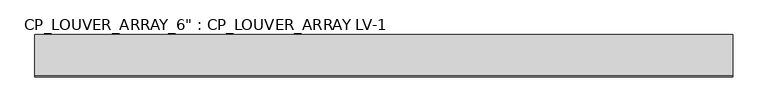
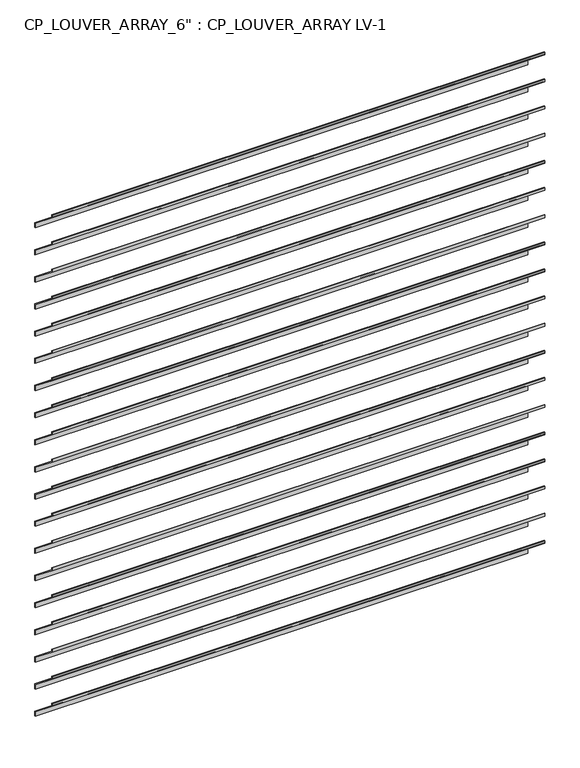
"""IFC4 building model written with IfcOpenShell, lengths in millimetres: plate geometry."""

import ifcopenshell
import ifcopenshell.guid

model = None  # the IFC model being written
_history = None  # IfcOwnerHistory: only IFC2X3 demands one
_inside = {}  # id of a spatial element -> (the spatial element, [elements in it])
_under = {}  # id of a project, library or spatial element -> (it, [spatial elements below it])
_declared = {}  # id of a project -> (the project, [libraries it declares])
_typed = {}  # id of a type object -> (the type object, [elements of that type])
_made_of = {}  # id of a material, layer set ... -> (it, [elements and type objects made of it])


def new_model(schema):
    """Start an empty IFC model of exactly this schema.

    Asked for "IFC4X3", IfcOpenShell would pick the latest addendum, in which some entities
    have other attributes; the version numbers below select the first issue.
    IFC2X3 requires an IfcOwnerHistory on every rooted entity: one is made here for all.
    """
    global model, _history
    if schema == "IFC4X3":
        model = ifcopenshell.file(schema_version=(4, 3, 0, 0))
    else:
        model = ifcopenshell.file(schema=schema)
    _inside.clear()
    _under.clear()
    _declared.clear()
    _typed.clear()
    _made_of.clear()
    _history = None
    if model.schema == "IFC2X3":
        org = make("IfcOrganization", Name="unknown")
        user = make(
            "IfcPersonAndOrganization",
            ThePerson=make("IfcPerson", FamilyName="unknown"),
            TheOrganization=org,
        )
        app = make(
            "IfcApplication",
            ApplicationDeveloper=org,
            Version="unknown",
            ApplicationFullName="unknown",
            ApplicationIdentifier="unknown",
        )
        _history = make(
            "IfcOwnerHistory",
            OwningUser=user,
            OwningApplication=app,
            ChangeAction="ADDED",
            CreationDate=0,
        )
    return model


def make(cls, **values):
    """One entity of the class cls with the attributes given. An attribute that is None is left unset."""
    return model.create_entity(
        cls, **{name: value for name, value in values.items() if value is not None}
    )


def rooted(cls, **values):
    """An entity with a GlobalId (a new one), such as an element, a storey or a relation."""
    return make(cls, GlobalId=ifcopenshell.guid.new(), OwnerHistory=_history, **values)


def si_unit(unit_type, name, prefix=None):
    """IfcSIUnit, for example si_unit("LENGTHUNIT", "METRE", prefix="MILLI")."""
    return make("IfcSIUnit", UnitType=unit_type, Prefix=prefix, Name=name)


def assignment(units):
    """IfcUnitAssignment: the units of a project."""
    return None if units is None else make("IfcUnitAssignment", Units=units)


def point(xyz):
    """IfcCartesianPoint."""
    return None if xyz is None else make("IfcCartesianPoint", Coordinates=xyz)


def direction(xyz):
    """IfcDirection."""
    return None if xyz is None else make("IfcDirection", DirectionRatios=xyz)


def frame(location, z_axis=None, x_axis=None):
    """IfcAxis2Placement3D, a coordinate frame: its origin and axes. An axis left out is left unset."""
    return make(
        "IfcAxis2Placement3D",
        Location=point(location),
        Axis=direction(z_axis),
        RefDirection=direction(x_axis),
    )


def origin():
    """The frame at (0, 0, 0) with its axes left unset."""
    return frame((0.0, 0.0, 0.0))


def place(relative_to, where):
    """IfcLocalPlacement: puts the frame where relative to a parent placement (None: the world)."""
    return make(
        "IfcLocalPlacement", PlacementRelTo=relative_to, RelativePlacement=where
    )


def context(
    kind, dimensions, precision=None, world=None, true_north=None, identifier=None
):
    """IfcGeometricRepresentationContext, for example the 3D "Model" context."""
    return make(
        "IfcGeometricRepresentationContext",
        ContextIdentifier=identifier,
        ContextType=kind,
        CoordinateSpaceDimension=dimensions,
        Precision=precision,
        WorldCoordinateSystem=world,
        TrueNorth=true_north,
    )


def project(units=None, contexts=None):
    """IfcProject with its units and contexts."""
    return rooted(
        "IfcProject",
        Name="project",
        RepresentationContexts=contexts,
        UnitsInContext=assignment(units),
    )


def spatial(cls, under=None, at=None, **own):
    """A site, building, storey or space (cls), placed at a placement, below another one or the project."""
    s = rooted(cls, ObjectPlacement=at, **own)
    if under is not None:
        _under.setdefault(under.id(), (under, []))[1].append(s)
    return s


def polyline(points):
    """IfcPolyline through the points."""
    return make("IfcPolyline", Points=[point(p) for p in points])


def outline(outer, holes=None, kind="AREA"):
    """IfcArbitraryClosedProfileDef: a profile drawn as a closed curve; with holes, ...WithVoids."""
    if holes is None:
        return make("IfcArbitraryClosedProfileDef", ProfileType=kind, OuterCurve=outer)
    return make(
        "IfcArbitraryProfileDefWithVoids",
        ProfileType=kind,
        OuterCurve=outer,
        InnerCurves=holes,
    )


def extrude(swept, where, along, depth):
    """IfcExtrudedAreaSolid: the profile swept, set in the frame where, extruded along a direction by depth."""
    return make(
        "IfcExtrudedAreaSolid",
        SweptArea=swept,
        Position=where,
        ExtrudedDirection=direction(along),
        Depth=depth,
    )


def shape(context_of_items, identifier, shape_type, items):
    """IfcShapeRepresentation: the items that make up one representation, for example the "Body"."""
    return make(
        "IfcShapeRepresentation",
        ContextOfItems=context_of_items,
        RepresentationIdentifier=identifier,
        RepresentationType=shape_type,
        Items=items,
    )


def source(mapping_origin, context_of_items, identifier, shape_type, items):
    """IfcRepresentationMap: a shape defined once, which mapped items show again and again."""
    return make(
        "IfcRepresentationMap",
        MappingOrigin=mapping_origin,
        MappedRepresentation=shape(context_of_items, identifier, shape_type, items),
    )


def transform(
    local_origin,
    x_axis=None,
    y_axis=None,
    z_axis=None,
    scale=None,
    scale2=None,
    scale3=None,
    uniform=True,
):
    """IfcCartesianTransformationOperator3D, or its non-uniform kind. x_axis, y_axis, z_axis: its Axis1, 2, 3."""
    if uniform:
        return make(
            "IfcCartesianTransformationOperator3D",
            Axis1=direction(x_axis),
            Axis2=direction(y_axis),
            LocalOrigin=point(local_origin),
            Scale=scale,
            Axis3=direction(z_axis),
        )
    return make(
        "IfcCartesianTransformationOperator3DnonUniform",
        Axis1=direction(x_axis),
        Axis2=direction(y_axis),
        LocalOrigin=point(local_origin),
        Scale=scale,
        Axis3=direction(z_axis),
        Scale2=scale2,
        Scale3=scale3,
    )


def mapped(mapping_source, mapping_target):
    """IfcMappedItem: shows the shape of a source again, moved by a transform."""
    return make(
        "IfcMappedItem", MappingSource=mapping_source, MappingTarget=mapping_target
    )


def made_of(thing, what):
    """Note that an element or type object is made of a material, layer set ...; save() writes the relation."""
    if what is not None:
        _made_of.setdefault(what.id(), (what, []))[1].append(thing)
    return thing


def element(
    cls,
    number,
    at=None,
    inside=None,
    cuts=None,
    type_object=None,
    material=None,
    context=None,
    identifier="Body",
    shape_type=None,
    held_by="IfcProductDefinitionShape",
    body=None,
    shapes=None,
    **own,
):
    """One element of the class cls, such as IfcWall. Its Tag is "e" and its number.

    at: its placement. inside: the storey or other place that contains it. cuts: it is an
    opening in that element (IfcRelVoidsElement). A single representation is given by context,
    identifier, shape_type and body (its items); several are given by shapes. held_by: the class
    of the entity that holds the representations. save() writes the other relations.
    """
    e = rooted(cls, Tag="e%d" % number, ObjectPlacement=at, **own)
    if body is not None:
        shapes = [shape(context, identifier, shape_type, body)]
    if shapes is not None:
        e.Representation = make(held_by, Representations=shapes)
    if inside is not None:
        _inside.setdefault(inside.id(), (inside, []))[1].append(e)
    if cuts is not None:
        rooted(
            "IfcRelVoidsElement", RelatingBuildingElement=cuts, RelatedOpeningElement=e
        )
    if type_object is not None:
        _typed.setdefault(type_object.id(), (type_object, []))[1].append(e)
    return made_of(e, material)


def aggregate(whole, parts):
    """IfcRelAggregates: a whole, such as a stair, and the parts it consists of."""
    return rooted("IfcRelAggregates", RelatingObject=whole, RelatedObjects=parts)


def save(model, path):
    """Write the relations noted so far, then the file.

    IfcRelAggregates (storeys below a building ...), IfcRelContainedInSpatialStructure (elements
    in a storey), IfcRelDefinesByType, IfcRelAssociatesMaterial and IfcRelDeclares: one each for
    every whole, place, type object, material and project.
    """
    for whole, parts in _under.values():
        aggregate(whole, parts)
    for where, things in _inside.values():
        rooted(
            "IfcRelContainedInSpatialStructure",
            RelatedElements=things,
            RelatingStructure=where,
        )
    for kind, things in _typed.values():
        rooted("IfcRelDefinesByType", RelatedObjects=things, RelatingType=kind)
    for what, things in _made_of.values():
        rooted("IfcRelAssociatesMaterial", RelatedObjects=things, RelatingMaterial=what)
    for by, libraries in _declared.values():
        rooted("IfcRelDeclares", RelatingContext=by, RelatedDefinitions=libraries)
    model.write(path)


def plate_1de29597(model_context):
    return source(origin(), model_context, "Body", "SweptSolid", [
        extrude(outline(polyline([(10.1207966, 2755.9), (6.9457966, 2755.9), (6.9457966, 2781.8070081), (-148.6292034, 2906.2670081), (-148.6292034, 2921.0), (-145.4542034, 2921.0), (-145.4542034, 2907.7929919), (10.1207966, 2783.3329919), (10.1207966, 2755.9)])), frame((-1308.1, 0.0, 0.0), z_axis=(1.0, 0.0, 0.0), x_axis=(0.0, 1.0, 0.0)), (0.0, 0.0, 1.0), 2616.2),
        extrude(outline(polyline([(10.1207966, 2603.5), (6.9457966, 2603.5), (6.9457966, 2629.4070081), (-148.6292034, 2753.8670081), (-148.6292034, 2768.6), (-145.4542034, 2768.6), (-145.4542034, 2755.3929919), (10.1207966, 2630.9329919), (10.1207966, 2603.5)])), frame((-1308.1, 0.0, 0.0), z_axis=(1.0, 0.0, 0.0), x_axis=(0.0, 1.0, 0.0)), (0.0, 0.0, 1.0), 2616.2),
        extrude(outline(polyline([(10.1207966, 2451.1), (6.9457966, 2451.1), (6.9457966, 2477.0070081), (-148.6292034, 2601.4670081), (-148.6292034, 2616.2), (-145.4542034, 2616.2), (-145.4542034, 2602.9929919), (10.1207966, 2478.5329919), (10.1207966, 2451.1)])), frame((-1308.1, 0.0, 0.0), z_axis=(1.0, 0.0, 0.0), x_axis=(0.0, 1.0, 0.0)), (0.0, 0.0, 1.0), 2616.2),
        extrude(outline(polyline([(10.1207966, 2298.7), (6.9457966, 2298.7), (6.9457966, 2324.6070081), (-148.6292034, 2449.0670081), (-148.6292034, 2463.8), (-145.4542034, 2463.8), (-145.4542034, 2450.5929919), (10.1207966, 2326.1329919), (10.1207966, 2298.7)])), frame((-1308.1, 0.0, 0.0), z_axis=(1.0, 0.0, 0.0), x_axis=(0.0, 1.0, 0.0)), (0.0, 0.0, 1.0), 2616.2),
        extrude(outline(polyline([(10.1207966, 2146.3), (6.9457966, 2146.3), (6.9457966, 2172.2070081), (-148.6292034, 2296.6670081), (-148.6292034, 2311.4), (-145.4542034, 2311.4), (-145.4542034, 2298.1929919), (10.1207966, 2173.7329919), (10.1207966, 2146.3)])), frame((-1308.1, 0.0, 0.0), z_axis=(1.0, 0.0, 0.0), x_axis=(0.0, 1.0, 0.0)), (0.0, 0.0, 1.0), 2616.2),
        extrude(outline(polyline([(10.1207966, 1993.9), (6.9457966, 1993.9), (6.9457966, 2019.8070081), (-148.6292034, 2144.2670081), (-148.6292034, 2159.0), (-145.4542034, 2159.0), (-145.4542034, 2145.7929919), (10.1207966, 2021.3329919), (10.1207966, 1993.9)])), frame((-1308.1, 0.0, 0.0), z_axis=(1.0, 0.0, 0.0), x_axis=(0.0, 1.0, 0.0)), (0.0, 0.0, 1.0), 2616.2),
        extrude(outline(polyline([(10.1207966, 1841.5), (6.9457966, 1841.5), (6.9457966, 1867.4070081), (-148.6292034, 1991.8670081), (-148.6292034, 2006.6), (-145.4542034, 2006.6), (-145.4542034, 1993.3929919), (10.1207966, 1868.9329919), (10.1207966, 1841.5)])), frame((-1308.1, 0.0, 0.0), z_axis=(1.0, 0.0, 0.0), x_axis=(0.0, 1.0, 0.0)), (0.0, 0.0, 1.0), 2616.2),
        extrude(outline(polyline([(10.1207966, 1689.1), (6.9457966, 1689.1), (6.9457966, 1715.0070081), (-148.6292034, 1839.4670081), (-148.6292034, 1854.2), (-145.4542034, 1854.2), (-145.4542034, 1840.9929919), (10.1207966, 1716.5329919), (10.1207966, 1689.1)])), frame((-1308.1, 0.0, 0.0), z_axis=(1.0, 0.0, 0.0), x_axis=(0.0, 1.0, 0.0)), (0.0, 0.0, 1.0), 2616.2),
        extrude(outline(polyline([(10.1207966, 1536.7), (6.9457966, 1536.7), (6.9457966, 1562.6070081), (-148.6292034, 1687.0670081), (-148.6292034, 1701.8), (-145.4542034, 1701.8), (-145.4542034, 1688.5929919), (10.1207966, 1564.1329919), (10.1207966, 1536.7)])), frame((-1308.1, 0.0, 0.0), z_axis=(1.0, 0.0, 0.0), x_axis=(0.0, 1.0, 0.0)), (0.0, 0.0, 1.0), 2616.2),
        extrude(outline(polyline([(10.1207966, 1384.3), (6.9457966, 1384.3), (6.9457966, 1410.2070081), (-148.6292034, 1534.6670081), (-148.6292034, 1549.4), (-145.4542034, 1549.4), (-145.4542034, 1536.1929919), (10.1207966, 1411.7329919), (10.1207966, 1384.3)])), frame((-1308.1, 0.0, 0.0), z_axis=(1.0, 0.0, 0.0), x_axis=(0.0, 1.0, 0.0)), (0.0, 0.0, 1.0), 2616.2),
        extrude(outline(polyline([(10.1207966, 1231.9), (6.9457966, 1231.9), (6.9457966, 1257.8070081), (-148.6292034, 1382.2670081), (-148.6292034, 1397.0), (-145.4542034, 1397.0), (-145.4542034, 1383.7929919), (10.1207966, 1259.3329919), (10.1207966, 1231.9)])), frame((-1308.1, 0.0, 0.0), z_axis=(1.0, 0.0, 0.0), x_axis=(0.0, 1.0, 0.0)), (0.0, 0.0, 1.0), 2616.2),
        extrude(outline(polyline([(10.1207966, 1079.5), (6.9457966, 1079.5), (6.9457966, 1105.4070081), (-148.6292034, 1229.8670081), (-148.6292034, 1244.6), (-145.4542034, 1244.6), (-145.4542034, 1231.3929919), (10.1207966, 1106.9329919), (10.1207966, 1079.5)])), frame((-1308.1, 0.0, 0.0), z_axis=(1.0, 0.0, 0.0), x_axis=(0.0, 1.0, 0.0)), (0.0, 0.0, 1.0), 2616.2),
        extrude(outline(polyline([(10.1207966, 927.1), (6.9457966, 927.1), (6.9457966, 953.0070081), (-148.6292034, 1077.4670081), (-148.6292034, 1092.2), (-145.4542034, 1092.2), (-145.4542034, 1078.9929919), (10.1207966, 954.5329919), (10.1207966, 927.1)])), frame((-1308.1, 0.0, 0.0), z_axis=(1.0, 0.0, 0.0), x_axis=(0.0, 1.0, 0.0)), (0.0, 0.0, 1.0), 2616.2),
        extrude(outline(polyline([(10.1207966, 774.7), (6.9457966, 774.7), (6.9457966, 800.6070081), (-148.6292034, 925.0670081), (-148.6292034, 939.8), (-145.4542034, 939.8), (-145.4542034, 926.5929919), (10.1207966, 802.1329919), (10.1207966, 774.7)])), frame((-1308.1, 0.0, 0.0), z_axis=(1.0, 0.0, 0.0), x_axis=(0.0, 1.0, 0.0)), (0.0, 0.0, 1.0), 2616.2),
        extrude(outline(polyline([(10.1207966, 622.3), (6.9457966, 622.3), (6.9457966, 648.2070081), (-148.6292034, 772.6670081), (-148.6292034, 787.4), (-145.4542034, 787.4), (-145.4542034, 774.1929919), (10.1207966, 649.7329919), (10.1207966, 622.3)])), frame((-1308.1, 0.0, 0.0), z_axis=(1.0, 0.0, 0.0), x_axis=(0.0, 1.0, 0.0)), (0.0, 0.0, 1.0), 2616.2),
        extrude(outline(polyline([(10.1207966, 469.9), (6.9457966, 469.9), (6.9457966, 495.8070081), (-148.6292034, 620.2670081), (-148.6292034, 635.0), (-145.4542034, 635.0), (-145.4542034, 621.7929919), (10.1207966, 497.3329919), (10.1207966, 469.9)])), frame((-1308.1, 0.0, 0.0), z_axis=(1.0, 0.0, 0.0), x_axis=(0.0, 1.0, 0.0)), (0.0, 0.0, 1.0), 2616.2),
        extrude(outline(polyline([(10.1207966, 317.5), (6.9457966, 317.5), (6.9457966, 343.4070081), (-148.6292034, 467.8670081), (-148.6292034, 482.6), (-145.4542034, 482.6), (-145.4542034, 469.3929919), (10.1207966, 344.9329919), (10.1207966, 317.5)])), frame((-1308.1, 0.0, 0.0), z_axis=(1.0, 0.0, 0.0), x_axis=(0.0, 1.0, 0.0)), (0.0, 0.0, 1.0), 2616.2),
        extrude(outline(polyline([(10.1207966, 165.1), (6.9457966, 165.1), (6.9457966, 191.0070081), (-148.6292034, 315.4670081), (-148.6292034, 330.2), (-145.4542034, 330.2), (-145.4542034, 316.9929919), (10.1207966, 192.5329919), (10.1207966, 165.1)])), frame((-1308.1, 0.0, 0.0), z_axis=(1.0, 0.0, 0.0), x_axis=(0.0, 1.0, 0.0)), (0.0, 0.0, 1.0), 2616.2),
        extrude(outline(polyline([(10.1207966, 12.7), (6.9457966, 12.7), (6.9457966, 38.6070081), (-148.6292034, 163.0670081), (-148.6292034, 177.8), (-145.4542034, 177.8), (-145.4542034, 164.5929919), (10.1207966, 40.1329919), (10.1207966, 12.7)])), frame((-1308.1, 0.0, 0.0), z_axis=(1.0, 0.0, 0.0), x_axis=(0.0, 1.0, 0.0)), (0.0, 0.0, 1.0), 2616.2),
    ])


if __name__ == "__main__":
    model = new_model("IFC4")
    model_context = context("Model", 3, world=origin())
    ifc_project = project(units=[si_unit("LENGTHUNIT", "METRE", prefix="MILLI")], contexts=[model_context])
    site = spatial("IfcSite", under=ifc_project)
    building = spatial("IfcBuilding", under=site)
    placement = place(None, origin())
    plate_shape = plate_1de29597(model_context)
    element("IfcPlate", 1, ObjectType="CP_LOUVER_ARRAY_6\" : CP_LOUVER_ARRAY LV-1", at=placement, inside=building, context=model_context, shape_type="MappedRepresentation", body=[
        mapped(plate_shape, transform((0.0, 0.0, 0.0), x_axis=(1.0, 0.0, 0.0), y_axis=(0.0, 1.0, 0.0), z_axis=(0.0, 0.0, 1.0))),
    ])
    save(model, "model.ifc")
